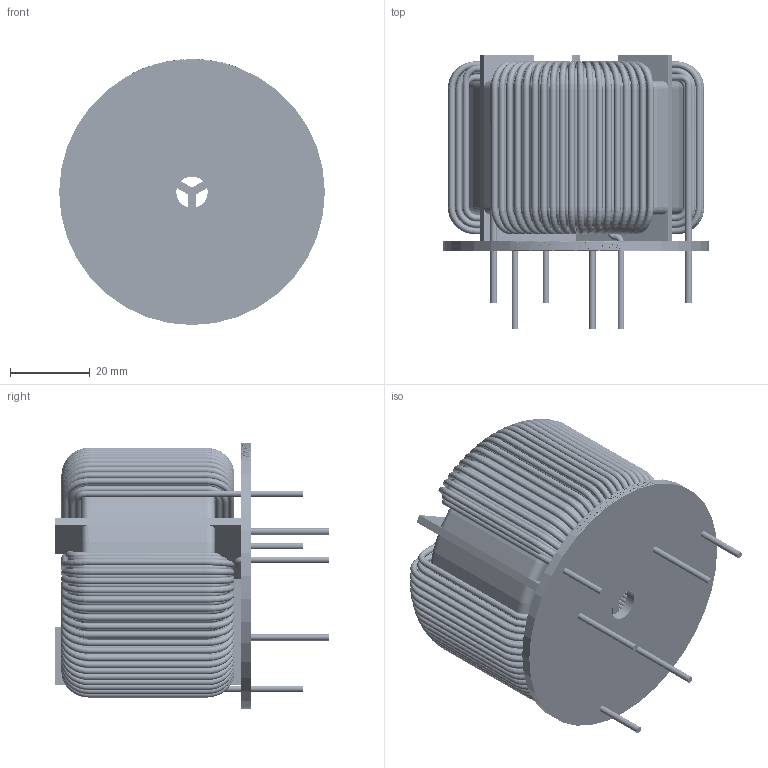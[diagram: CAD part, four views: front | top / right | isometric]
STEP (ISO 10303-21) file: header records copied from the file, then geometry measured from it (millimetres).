
FILE_DESCRIPTION (( 'STEP AP203' ), '1' );
FILE_NAME ('TPD-194U-B13A-SW.STEP', '2021-02-16T09:41:16', ( '' ), ( '' ), 'SwSTEP 2.0', 'SolidWorks 2018', '' );
FILE_SCHEMA (( 'CONFIG_CONTROL_DESIGN' ));
Length unit declared in the file: inch
Products named in the file (9): TPD-194U-B13A-SPACER-SW; TPD-194U-B13A-SW; TPD-194U-B13A-CORE-SW; TPD-194U-B13A-FRAME-SW; TPD-194U-B13A-COIL-SW
Assembly tree (4 placements, depth 2):
  TPD-194U-B13A-SW
    TPD-194U-B13A-CORE-SW
    TPD-194U-B13A-COIL-SW
    TPD-194U-B13A-FRAME-SW
    TPD-194U-B13A-SPACER-SW
  TPD-194U-B13A-CORE-SW
  TPD-194U-B13A-SPACER-SW
  TPD-194U-B13A-COIL-SW
  TPD-194U-B13A-FRAME-SW
Bounding box: 66.6 x 68.72 x 66.7 mm (x, y, z)
Volume: 92870.6 mm3; surface area: 119235.2 mm2
Topology: 378 solids, 378 shells, 4619 faces, 11542 edges, 7692 vertices
Faces by surface type: cylinder 2238, torus 1462, plane 816, bspline 103
Entity records: 150525 total; most frequent: CARTESIAN_POINT 31762, DIRECTION 29096, ORIENTED_EDGE 23084, AXIS2_PLACEMENT_3D 13392, EDGE_CURVE 11542, CIRCLE 8868, VERTEX_POINT 7692, EDGE_LOOP 4648
